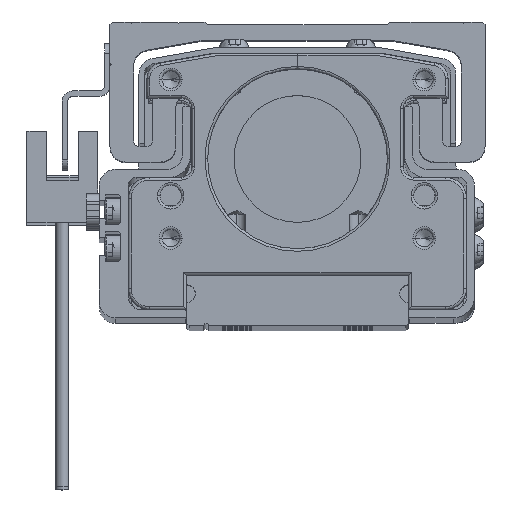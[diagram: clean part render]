
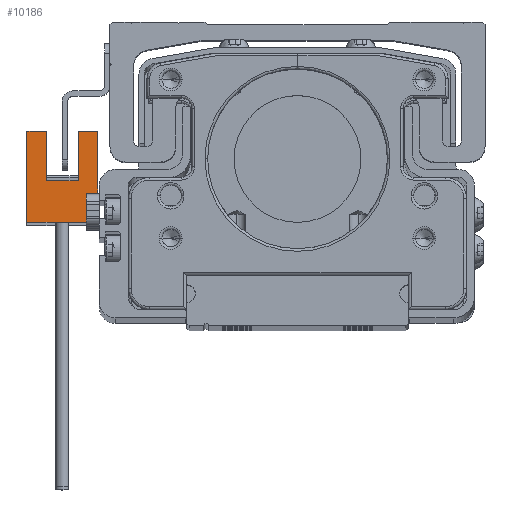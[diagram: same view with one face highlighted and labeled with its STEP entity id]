
A CAD part, top view. The second image highlights one B-rep face of the part: STEP entity #10186.
In plain terms, the highlighted planar face has unit normal (0, 0, 1) as drawn and (-1, 0, 0) by its records, which use the part's own axes.
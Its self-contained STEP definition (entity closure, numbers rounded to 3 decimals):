
#113 = CARTESIAN_POINT ( 'NONE',  ( -3., -15.2, -3.7 ) ) ;
#3754 = DIRECTION ( 'NONE',  ( 0., 1., 0. ) ) ;
#4056 = CARTESIAN_POINT ( 'NONE',  ( -3., -16.1, 7.5 ) ) ;
#6130 = ORIENTED_EDGE ( 'NONE', *, *, #27767, .T. ) ;
#6240 = ORIENTED_EDGE ( 'NONE', *, *, #43269, .T. ) ;
#7974 = VERTEX_POINT ( 'NONE', #50949 ) ;
#8151 = LINE ( 'NONE', #18049, #38389 ) ;
#8170 = ORIENTED_EDGE ( 'NONE', *, *, #18328, .T. ) ;
#8274 = VERTEX_POINT ( 'NONE', #43069 ) ;
#8990 = VERTEX_POINT ( 'NONE', #27031 ) ;
#9060 = DIRECTION ( 'NONE',  ( 0., -1., 0. ) ) ;
#9239 = CARTESIAN_POINT ( 'NONE',  ( -3., 2., -3.7 ) ) ;
#9573 = ORIENTED_EDGE ( 'NONE', *, *, #52145, .T. ) ;
#10186 = ADVANCED_FACE ( 'NONE', ( #43010 ), #38233, .T. ) ;
#11520 = DIRECTION ( 'NONE',  ( 0., 1., 0. ) ) ;
#11741 = EDGE_CURVE ( 'NONE', #39866, #8274, #13584, .T. ) ;
#12714 = LINE ( 'NONE', #36568, #42684 ) ;
#13584 = LINE ( 'NONE', #21663, #24510 ) ;
#14151 = DIRECTION ( 'NONE',  ( 0., 0., -1. ) ) ;
#14499 = VECTOR ( 'NONE', #24373, 1000. ) ;
#14572 = CARTESIAN_POINT ( 'NONE',  ( -3., -7.4, -3.7 ) ) ;
#14764 = EDGE_LOOP ( 'NONE', ( #19891, #6240, #44591, #9573, #17312, #23131, #8170, #6130, #30102, #41434 ) ) ;
#14835 = VERTEX_POINT ( 'NONE', #36942 ) ;
#15874 = CARTESIAN_POINT ( 'NONE',  ( -3., -15.2, 7.5 ) ) ;
#17312 = ORIENTED_EDGE ( 'NONE', *, *, #11741, .T. ) ;
#17414 = CARTESIAN_POINT ( 'NONE',  ( -3., 2., 0. ) ) ;
#18049 = CARTESIAN_POINT ( 'NONE',  ( -3., -15.2, -3.7 ) ) ;
#18235 = DIRECTION ( 'NONE',  ( 0., 0., 1. ) ) ;
#18328 = EDGE_CURVE ( 'NONE', #23653, #43940, #36454, .T. ) ;
#18799 = VERTEX_POINT ( 'NONE', #113 ) ;
#19891 = ORIENTED_EDGE ( 'NONE', *, *, #34741, .T. ) ;
#21013 = DIRECTION ( 'NONE',  ( 0., 0., -1. ) ) ;
#21663 = CARTESIAN_POINT ( 'NONE',  ( -3., 2., -3.7 ) ) ;
#21947 = LINE ( 'NONE', #33818, #40986 ) ;
#22881 = LINE ( 'NONE', #4056, #50959 ) ;
#23131 = ORIENTED_EDGE ( 'NONE', *, *, #45759, .T. ) ;
#23427 = VECTOR ( 'NONE', #39969, 1000. ) ;
#23653 = VERTEX_POINT ( 'NONE', #40188 ) ;
#24373 = DIRECTION ( 'NONE',  ( 0., -1., 0. ) ) ;
#24510 = VECTOR ( 'NONE', #21013, 1000. ) ;
#25612 = VECTOR ( 'NONE', #14151, 1000. ) ;
#25845 = VERTEX_POINT ( 'NONE', #17414 ) ;
#27031 = CARTESIAN_POINT ( 'NONE',  ( -3., -9.9, 9.7 ) ) ;
#27767 = EDGE_CURVE ( 'NONE', #43940, #25845, #21947, .T. ) ;
#28701 = VECTOR ( 'NONE', #9060, 1000. ) ;
#28888 = CARTESIAN_POINT ( 'NONE',  ( -3., 2., 9.7 ) ) ;
#29959 = LINE ( 'NONE', #36112, #52086 ) ;
#30053 = EDGE_CURVE ( 'NONE', #7974, #8990, #12714, .T. ) ;
#30102 = ORIENTED_EDGE ( 'NONE', *, *, #46490, .T. ) ;
#33808 = DIRECTION ( 'NONE',  ( 0., 1., 0. ) ) ;
#33818 = CARTESIAN_POINT ( 'NONE',  ( -3., 2., 0. ) ) ;
#34274 = LINE ( 'NONE', #35914, #23427 ) ;
#34741 = EDGE_CURVE ( 'NONE', #18799, #42904, #8151, .T. ) ;
#35914 = CARTESIAN_POINT ( 'NONE',  ( -3., 2., -3.7 ) ) ;
#36094 = DIRECTION ( 'NONE',  ( 0., 0., 1. ) ) ;
#36112 = CARTESIAN_POINT ( 'NONE',  ( -3., 2., 9.7 ) ) ;
#36115 = EDGE_CURVE ( 'NONE', #14835, #18799, #41980, .T. ) ;
#36454 = LINE ( 'NONE', #14572, #25612 ) ;
#36568 = CARTESIAN_POINT ( 'NONE',  ( -3., -9.9, -3.7 ) ) ;
#36942 = CARTESIAN_POINT ( 'NONE',  ( -3., 2., -3.7 ) ) ;
#37004 = DIRECTION ( 'NONE',  ( 0., 0., 1. ) ) ;
#37043 = DIRECTION ( 'NONE',  ( -1., 0., 0. ) ) ;
#37652 = CARTESIAN_POINT ( 'NONE',  ( -3., 2., -3.7 ) ) ;
#38233 = PLANE ( 'NONE',  #41257 ) ;
#38389 = VECTOR ( 'NONE', #18235, 1000. ) ;
#39173 = CARTESIAN_POINT ( 'NONE',  ( -3., -7.4, 0. ) ) ;
#39866 = VERTEX_POINT ( 'NONE', #28888 ) ;
#39969 = DIRECTION ( 'NONE',  ( 0., 0., -1. ) ) ;
#40188 = CARTESIAN_POINT ( 'NONE',  ( -3., -7.4, 6. ) ) ;
#40986 = VECTOR ( 'NONE', #33808, 1000. ) ;
#41257 = AXIS2_PLACEMENT_3D ( 'NONE', #37652, #37043, #37004 ) ;
#41434 = ORIENTED_EDGE ( 'NONE', *, *, #36115, .T. ) ;
#41980 = LINE ( 'NONE', #9239, #28701 ) ;
#42684 = VECTOR ( 'NONE', #36094, 1000. ) ;
#42904 = VERTEX_POINT ( 'NONE', #15874 ) ;
#43010 = FACE_OUTER_BOUND ( 'NONE', #14764, .T. ) ;
#43069 = CARTESIAN_POINT ( 'NONE',  ( -3., 2., 6. ) ) ;
#43269 = EDGE_CURVE ( 'NONE', #42904, #7974, #22881, .T. ) ;
#43940 = VERTEX_POINT ( 'NONE', #39173 ) ;
#44591 = ORIENTED_EDGE ( 'NONE', *, *, #30053, .T. ) ;
#45491 = LINE ( 'NONE', #52098, #14499 ) ;
#45759 = EDGE_CURVE ( 'NONE', #8274, #23653, #45491, .T. ) ;
#46490 = EDGE_CURVE ( 'NONE', #25845, #14835, #34274, .T. ) ;
#50949 = CARTESIAN_POINT ( 'NONE',  ( -3., -9.9, 7.5 ) ) ;
#50959 = VECTOR ( 'NONE', #3754, 1000. ) ;
#52086 = VECTOR ( 'NONE', #11520, 1000. ) ;
#52098 = CARTESIAN_POINT ( 'NONE',  ( -3., 2., 6. ) ) ;
#52145 = EDGE_CURVE ( 'NONE', #8990, #39866, #29959, .T. ) ;
